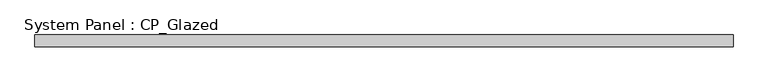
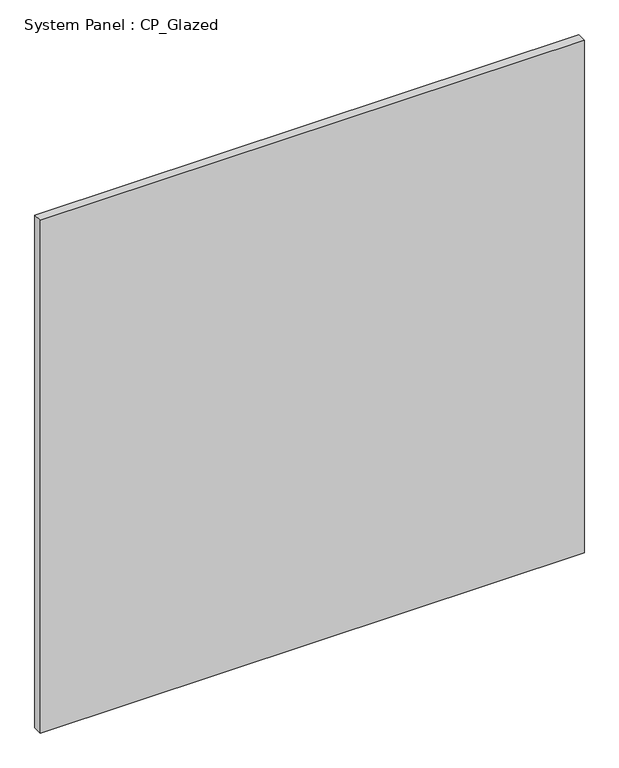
"""IFC4 building model written with IfcOpenShell, lengths in millimetres: plate geometry, System Panel : CP_Glazed."""

from ifc_helpers import new_model, si_unit, origin, origin_with_axes, place, context, project, spatial, polyline, outline, extrude, source, transform, mapped, element, save


def system_panel_cp_glazed_294bbf74(model_context):
    return source(origin(), model_context, "Body", "SweptSolid", [
        extrude(outline(polyline([(742.95, 19.05), (-742.95, 19.05), (-742.95, 44.45), (742.95, 44.45), (742.95, 19.05)])), origin_with_axes(), (0.0, 0.0, 1.0), 1479.55),
    ])


if __name__ == "__main__":
    model = new_model("IFC4")
    model_context = context("Model", 3, world=origin())
    ifc_project = project(units=[si_unit("LENGTHUNIT", "METRE", prefix="MILLI")], contexts=[model_context])
    site = spatial("IfcSite", under=ifc_project)
    building = spatial("IfcBuilding", under=site)
    placement = place(None, origin())
    system_panel_cp_glazed_shape = system_panel_cp_glazed_294bbf74(model_context)
    element("IfcPlate", 1, ObjectType="System Panel : CP_Glazed", at=placement, inside=building, context=model_context, shape_type="MappedRepresentation", body=[
        mapped(system_panel_cp_glazed_shape, transform((0.0, 0.0, 0.0), x_axis=(1.0, 0.0, 0.0), y_axis=(0.0, 1.0, 0.0), z_axis=(0.0, 0.0, 1.0))),
    ])
    save(model, "model.ifc")
